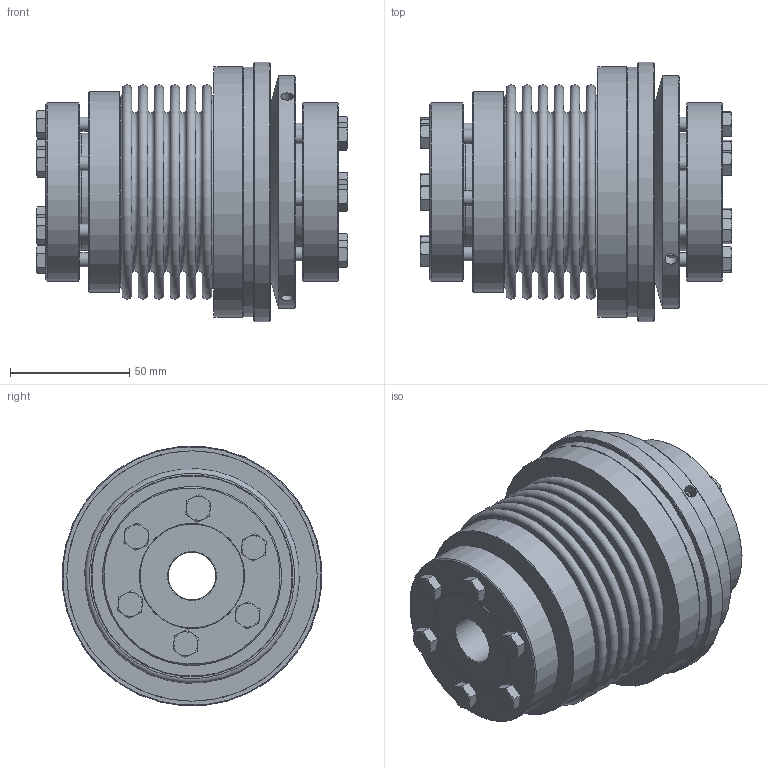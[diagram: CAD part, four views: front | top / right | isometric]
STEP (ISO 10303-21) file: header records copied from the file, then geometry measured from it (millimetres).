
FILE_DESCRIPTION( ( 'Unknown' ), '1' );
FILE_NAME( 'K:/Konstruktion/Korrigierte 3D Modelle/KBK-B-AA/KBK-BAA-200-132.stp', 'Unknown', ( 'Unknown' ), ( 'Unknown' ), 'PSStep 16.0.42', 'Unknown', ' ' );
FILE_SCHEMA( ( 'AUTOMOTIVE_DESIGN { 1 0 10303 214 1 1 1 1 }' ) );
Length unit declared in the file: millimetre
Products named in the file (18): Stellring 200; Druckring 200; KBK L-A-200 Grundkörper; Druckring L-A-200; din_en_24017_m6x25_0; BA6-200; Hex Screw GradeC_DIN_ISO 4018 - M6 x 30-NN_1; BA200_Standard; DR200_Standard; A-200; Assem1; BL200_Standard_0; Flansch BK200
Assembly tree (27 placements, depth 4):
  Assem1
    BL200_Standard_0
    Flansch BK200
    BA6-200
      Hex Screw GradeC_DIN_ISO 4018 - M6 x 30-NN_1  x6
      BA200_Standard
      DR200_Standard
    A-200
      Stellring 200
        Stellring 200
      Druckring 200
        Druckring 200
      KBK L-A-200 Grundkörper
        KBK L-A-200 Grundkörper
      din_en_24017_m6x25_0  x6
        din_en_24017_m6x25_0
      Druckring L-A-200
        Druckring L-A-200
Bounding box: 130.5 x 108.72 x 108.72 mm (x, y, z)
Volume: 500385.9 mm3; surface area: 216558.5 mm2
Topology: 20 solids, 20 shells, 430 faces, 890 edges, 566 vertices
Faces by surface type: plane 196, cone 125, cylinder 76, torus 33
Full cylindrical faces by diameter (mm): 3.242 x3, 4.917 x6, 5 x6, 5.2 x6, 6 x12, 6.6 x12, 8.8 x6, 20 x2, 47 x1, 49.29 x2, 50 x2, 60 x1, 62 x1, 65 x1, 66 x2, 75 x2, 77 x1, 79.2 x2, 80.4 x2, 84.5 x1, 90 x1, 98 x1, 105 x2, 109 x1
Entity records: 8200 total; most frequent: CARTESIAN_POINT 1344, DIRECTION 1070, ORIENTED_EDGE 654, AXIS2_PLACEMENT_3D 511, EDGE_LOOP 460, EDGE_CURVE 327, FACE_OUTER_BOUND 324, VERTEX_POINT 291
